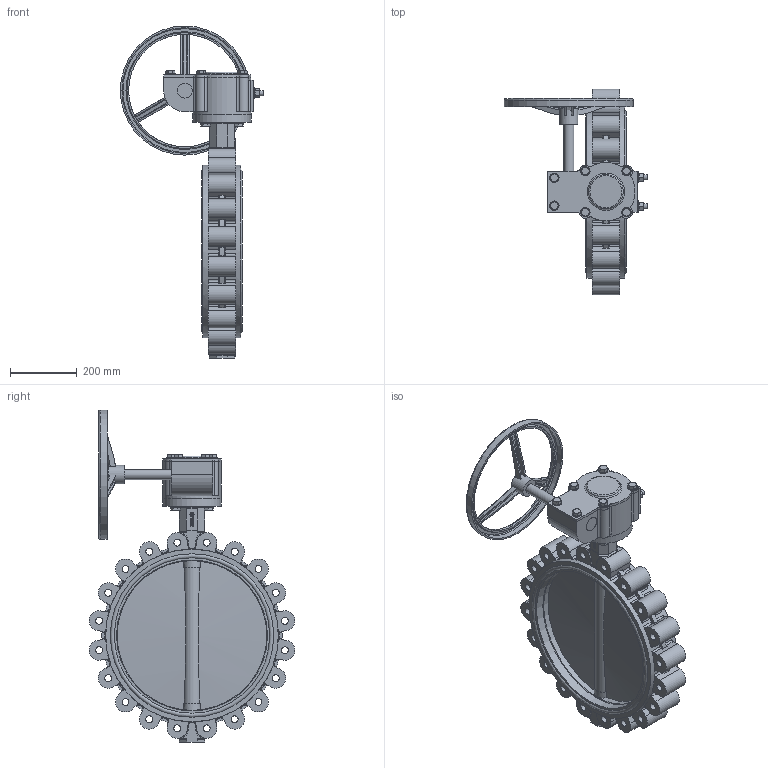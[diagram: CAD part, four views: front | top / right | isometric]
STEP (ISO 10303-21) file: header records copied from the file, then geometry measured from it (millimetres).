
FILE_DESCRIPTION(('STEP AP242'), '1');
FILE_NAME('Ïîâîðîòíûé çàòâîð ïîä ýëåêòðîïðèâîä', '', ('UNSPECIFIED'), ('UNSPECIFIED'), 'C3D Converter', 'C3D Toolkit', '');
FILE_SCHEMA(('AP242_MANAGED_MODEL_BASED_3D_ENGINEERING_MIM_LF { 1 0 10303 442 1 1 4 }'));
Length unit declared in the file: millimetre
Products named in the file (17): П
Assembly tree (36 placements, depth 3):
  (unnamed)
    (unnamed)
    П  x2
    (unnamed)
    (unnamed)
    (unnamed)
    (unnamed)
      (unnamed)
      (unnamed)
      (unnamed)
      (unnamed)
      (unnamed)  x6
      (unnamed)  x6
      (unnamed)  x2
      (unnamed)  x2
      (unnamed)
    (unnamed)  x4
    (unnamed)  x4
Bounding box: 431 x 618.03 x 997.5 mm (x, y, z)
Volume: 21430704.7 mm3; surface area: 2461760.2 mm2
Topology: 35 solids, 35 shells, 1267 faces, 3121 edges, 1981 vertices
Faces by surface type: plane 508, cylinder 370, torus 153, extrusion 135, bspline 53, cone 44, sphere 4
Full cylindrical faces by diameter (mm): 6 x2, 12.564 x1, 14.376 x2, 16 x30, 17 x10, 18 x4, 20.752 x20, 28 x10, 30 x3, 36 x5, 39.6 x1, 45 x2, 50.912 x5, 54.15 x4, 55 x1, 175 x2, 338 x1, 348 x1, 378 x1, 388 x1, 450 x1, 453.375 x2, 466.875 x2, 478.938 x4, 491 x4, 518.733 x2
Entity records: 49392 total; most frequent: CARTESIAN_POINT 20294, ORIENTED_EDGE 5332, DIRECTION 5049, EDGE_CURVE 2666, AXIS2_PLACEMENT_3D 1876, VERTEX_POINT 1775, EDGE_LOOP 1361, VECTOR 1297
